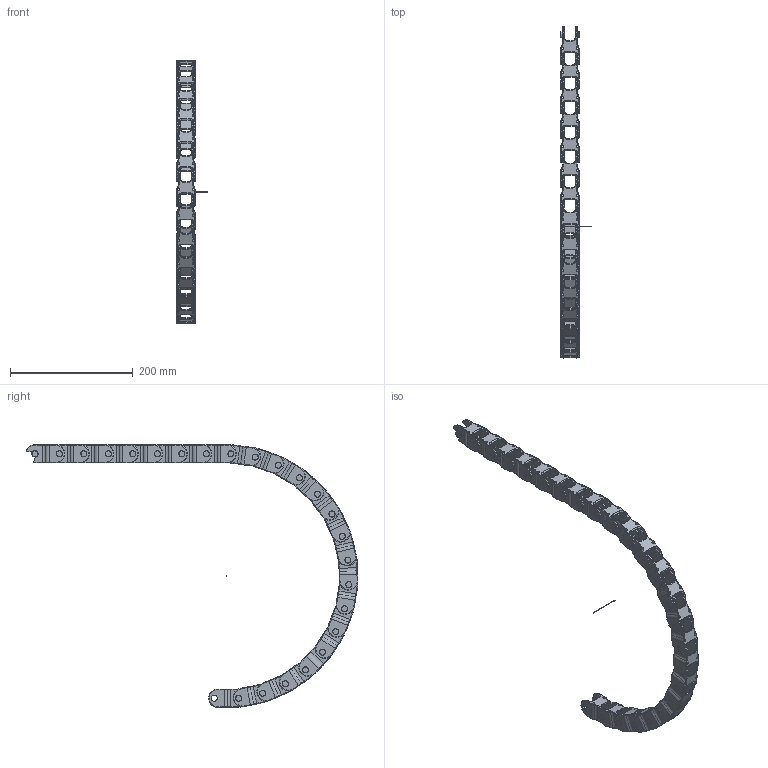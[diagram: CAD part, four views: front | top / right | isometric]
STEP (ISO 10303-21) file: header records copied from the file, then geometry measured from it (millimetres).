
FILE_DESCRIPTION((''),'2;1');
FILE_NAME('C:\Uebbing\PARAMETERKETTEN\KOLIBRI\Kol_30_030_3\KOLIBRI 30_030_3_PARAMETRISCH.stp','2011-11-02T11:29:59',('Uebbing'),(''),'Autodesk Inventor 10','Autodesk Inventor 10','');
FILE_SCHEMA(('AUTOMOTIVE_DESIGN { 1 0 10303 214 1 1 1 1 }'));
Length unit declared in the file: millimetre
Products named in the file (3): KOLIBRI 30_030_3_PARAMETRISCH; Kol_30_030_3; Achse
Assembly tree (25 placements, depth 2):
  KOLIBRI 30_030_3_PARAMETRISCH
    Kol_30_030_3  x24
    Achse
Bounding box: 50 x 541.49 x 428.87 mm (x, y, z)
Volume: 304149.1 mm3; surface area: 229025.2 mm2
Topology: 25 solids, 25 shells, 2811 faces, 7756 edges, 4851 vertices
Faces by surface type: bspline 984, cylinder 697, torus 624, plane 506
Full cylindrical faces by diameter (mm): 1 x1, 9.95 x24, 10.05 x24
Entity records: 5844 total; most frequent: CARTESIAN_POINT 2763, DIRECTION 632, ORIENTED_EDGE 620, EDGE_CURVE 310, AXIS2_PLACEMENT_3D 266, VERTEX_POINT 198, CIRCLE 148, EDGE_LOOP 132
